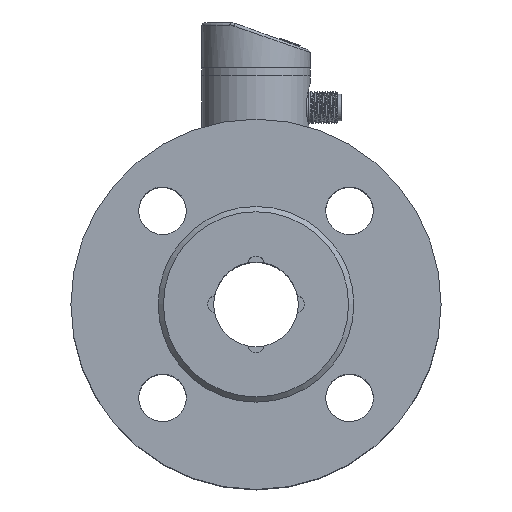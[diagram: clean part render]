
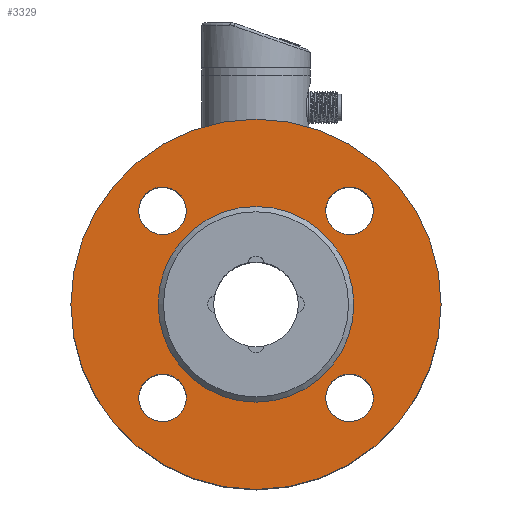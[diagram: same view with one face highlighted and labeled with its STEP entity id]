
A CAD part, top view. The second image highlights one B-rep face of the part: STEP entity #3329.
In plain terms, the highlighted planar face has unit normal (0, 0, 1).
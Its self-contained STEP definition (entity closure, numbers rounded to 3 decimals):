
#1718=PLANE('',#9455);
#3329=ADVANCED_FACE('',(#3978,#3979,#3980,#3981,#3982,#3983),#1718,.T.);
#3978=FACE_BOUND('',#4278,.T.);
#3979=FACE_BOUND('',#4279,.T.);
#3980=FACE_BOUND('',#4280,.T.);
#3981=FACE_BOUND('',#4281,.T.);
#3982=FACE_BOUND('',#4282,.T.);
#3983=FACE_BOUND('',#4283,.T.);
#4278=EDGE_LOOP('',(#5127));
#4279=EDGE_LOOP('',(#5128));
#4280=EDGE_LOOP('',(#5129));
#4281=EDGE_LOOP('',(#5130));
#4282=EDGE_LOOP('',(#5131));
#4283=EDGE_LOOP('',(#5132));
#5127=ORIENTED_EDGE('',*,*,#7855,.T.);
#5128=ORIENTED_EDGE('',*,*,#7712,.F.);
#5129=ORIENTED_EDGE('',*,*,#7746,.T.);
#5130=ORIENTED_EDGE('',*,*,#7744,.F.);
#5131=ORIENTED_EDGE('',*,*,#7714,.T.);
#5132=ORIENTED_EDGE('',*,*,#7710,.F.);
#6986=VERTEX_POINT('',#12554);
#6988=VERTEX_POINT('',#12559);
#6990=VERTEX_POINT('',#12564);
#7012=VERTEX_POINT('',#12625);
#7014=VERTEX_POINT('',#12630);
#7083=VERTEX_POINT('',#13909);
#7710=EDGE_CURVE('',#6986,#6986,#8785,.T.);
#7712=EDGE_CURVE('',#6988,#6988,#8787,.T.);
#7714=EDGE_CURVE('',#6990,#6990,#8789,.T.);
#7744=EDGE_CURVE('',#7012,#7012,#8811,.T.);
#7746=EDGE_CURVE('',#7014,#7014,#8813,.T.);
#7855=EDGE_CURVE('',#7083,#7083,#8889,.T.);
#8785=CIRCLE('',#9283,9.);
#8787=CIRCLE('',#9286,9.);
#8789=CIRCLE('',#9289,9.);
#8811=CIRCLE('',#9320,70.);
#8813=CIRCLE('',#9323,9.);
#8889=CIRCLE('',#9454,37.);
#9283=AXIS2_PLACEMENT_3D('',#12553,#10277,#10278);
#9286=AXIS2_PLACEMENT_3D('',#12558,#10283,#10284);
#9289=AXIS2_PLACEMENT_3D('',#12563,#10289,#10290);
#9320=AXIS2_PLACEMENT_3D('',#12624,#10359,#10360);
#9323=AXIS2_PLACEMENT_3D('',#12629,#10365,#10366);
#9454=AXIS2_PLACEMENT_3D('',#13908,#10647,#10648);
#9455=AXIS2_PLACEMENT_3D('',#13910,#10649,#10650);
#10277=DIRECTION('',(0.,0.,1.));
#10278=DIRECTION('',(1.,0.,0.));
#10283=DIRECTION('',(0.,0.,1.));
#10284=DIRECTION('',(1.,0.,0.));
#10289=DIRECTION('',(0.,0.,-1.));
#10290=DIRECTION('',(1.,0.,0.));
#10359=DIRECTION('',(0.,0.,-1.));
#10360=DIRECTION('',(1.,0.,0.));
#10365=DIRECTION('',(0.,0.,-1.));
#10366=DIRECTION('',(1.,0.,0.));
#10647=DIRECTION('',(0.,0.,-1.));
#10648=DIRECTION('',(1.,0.,0.));
#10649=DIRECTION('',(0.,0.,1.));
#10650=DIRECTION('',(-1.,0.,0.));
#12553=CARTESIAN_POINT('',(35.355,-35.355,10.));
#12554=CARTESIAN_POINT('',(44.355,-35.355,10.));
#12558=CARTESIAN_POINT('',(-35.355,-35.355,10.));
#12559=CARTESIAN_POINT('',(-26.355,-35.355,10.));
#12563=CARTESIAN_POINT('',(-35.355,35.355,10.));
#12564=CARTESIAN_POINT('',(-26.355,35.355,10.));
#12624=CARTESIAN_POINT('',(0.,0.,10.));
#12625=CARTESIAN_POINT('',(70.,0.,10.));
#12629=CARTESIAN_POINT('',(35.355,35.355,10.));
#12630=CARTESIAN_POINT('',(44.355,35.355,10.));
#13908=CARTESIAN_POINT('',(0.,0.,10.));
#13909=CARTESIAN_POINT('',(37.,0.,10.));
#13910=CARTESIAN_POINT('',(0.,0.,10.));
